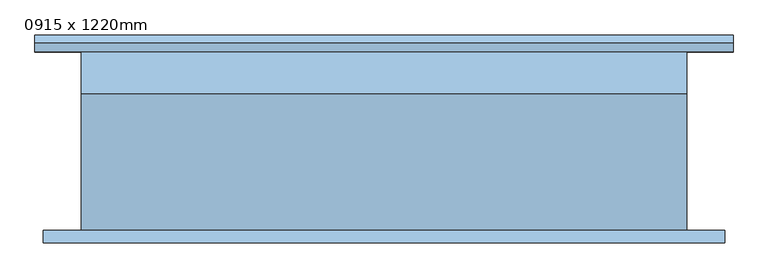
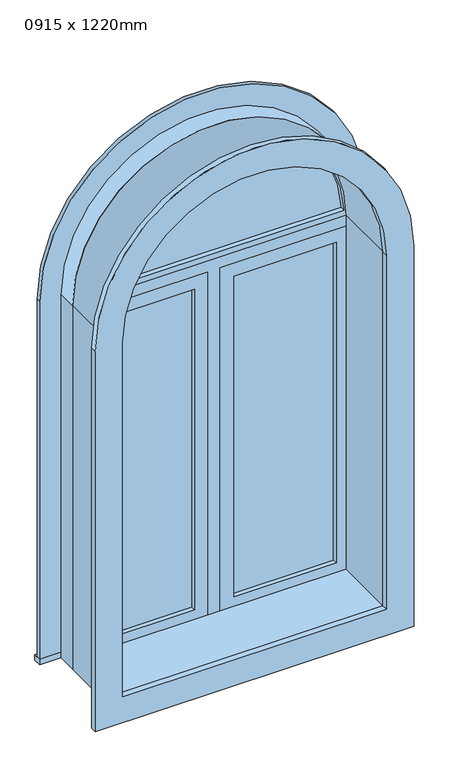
"""IFC4 building model written with IfcOpenShell, lengths in millimetres: window geometry, M_Combination Rtp with Trim : 0915 x 1220mm."""

from ifc_helpers import new_model, si_unit, point, frame, frame_2d, origin, place, context, project, spatial, polyline, circle_curve, trimmed, segment, composite_curve, outline, extrude, source, transform, mapped, element, save


def window_0915_x_1220mm_3bb93231(model_context):
    return source(origin(), model_context, "Body", "SweptSolid", [
        extrude(outline(composite_curve([segment(polyline([(2154.05, -506.7478419), (857.75, -506.7478419), (857.75, 522.7521581), (2154.05, 522.7521581)]), True, "CONTINUOUS"), segment(trimmed(circle_curve(frame_2d((2154.05, 8.0021581)), 514.75), [point((2154.05, 522.7521581))], [point((2154.05, -506.7478419))], False, "CARTESIAN"), True, "CONTINUOUS")], self_intersect=False), holes=[composite_curve([segment(trimmed(circle_curve(frame_2d((2154.05, 8.0021581)), 425.75), [point((2154.05, -417.7478419))], [point((2154.05, 433.7521581))], True, "CARTESIAN"), True, "CONTINUOUS"), segment(polyline([(2154.05, 433.7521581), (946.75, 433.7521581), (946.75, -417.7478419), (2154.05, -417.7478419)]), True, "CONTINUOUS")], self_intersect=False)]), frame((0.0, -154.0, 0.0), z_axis=(0.0, 1.0, 0.0), x_axis=(0.0, 0.0, 1.0)), (0.0, 0.0, 1.0), 19.0),
        extrude(outline(composite_curve([segment(trimmed(circle_curve(frame_2d((2154.05, 8.0021581)), 419.515161), [point((2173.0999995, 427.0845699))], [point((2173.0999995, -411.0802537))], False, "CARTESIAN"), True, "CONTINUOUS"), segment(polyline([(2173.0999995, -411.0802537), (2173.0999995, 427.0845699)]), True, "CONTINUOUS")], self_intersect=False)), frame((0.0, 87.425, 0.0), z_axis=(0.0, 1.0, 0.0), x_axis=(0.0, 0.0, 1.0)), (0.0, 0.0, 1.0), 12.7),
        extrude(outline(composite_curve([segment(trimmed(circle_curve(frame_2d((2154.05, 8.0021581)), 438.45), [point((2154.05, 446.4521581))], [point((2154.05, -430.4478419))], False, "CARTESIAN"), True, "CONTINUOUS"), segment(polyline([(2154.05, -430.4478419), (2154.05, 446.4521581)]), True, "CONTINUOUS")], self_intersect=False), holes=[composite_curve([segment(polyline([(2173.0999995, 427.0845698), (2173.0999995, -411.0802537)]), True, "CONTINUOUS"), segment(trimmed(circle_curve(frame_2d((2154.05, 8.0021581)), 419.515161), [point((2173.0999995, -411.0802537))], [point((2173.0999995, 427.0845698))], True, "CARTESIAN"), True, "CONTINUOUS")], self_intersect=False)]), frame((0.0, 71.55, 0.0), z_axis=(0.0, 1.0, 0.0), x_axis=(0.0, 0.0, 1.0)), (0.0, 0.0, 1.0), 44.45),
        extrude(outline(composite_curve([segment(polyline([(915.0, -449.4978419), (915.0, 465.5021581), (2154.05, 465.5021581)]), True, "CONTINUOUS"), segment(trimmed(circle_curve(frame_2d((2154.05, 8.0021581)), 457.5), [point((2154.05, 465.5021581))], [point((2154.05, -449.4978419))], False, "CARTESIAN"), True, "CONTINUOUS"), segment(polyline([(2154.05, -449.4978419), (915.0, -449.4978419)]), True, "CONTINUOUS")], self_intersect=False), holes=[composite_curve([segment(polyline([(934.05, -430.4478419), (2154.05, -430.4478419)]), True, "CONTINUOUS"), segment(trimmed(circle_curve(frame_2d((2154.05, 8.0021581)), 438.45), [point((2154.05, -430.4478419))], [point((2154.05, 446.4521581))], True, "CARTESIAN"), True, "CONTINUOUS"), segment(polyline([(2154.05, 446.4521581), (934.05, 446.4521581), (934.05, -430.4478419)]), True, "CONTINUOUS")], self_intersect=False)]), frame((0.0, 71.55, 0.0), z_axis=(0.0, 1.0, 0.0), x_axis=(0.0, 0.0, 1.0)), (0.0, 0.0, 1.0), 63.45),
        extrude(outline(polyline([(71.5021581, 100.125), (402.0021581, 100.125), (402.0021581, 87.425), (71.5021581, 87.425), (71.5021581, 100.125)])), frame((0.0, 0.0, 978.5), z_axis=(0.0, 0.0, 1.0), x_axis=(1.0, 0.0, 0.0)), (0.0, 0.0, 1.0), 1093.0),
        extrude(outline(polyline([(2115.95, 27.0521581), (934.05, 27.0521581), (934.05, 446.4521581), (2115.95, 446.4521581), (2115.95, 27.0521581)]), holes=[polyline([(2071.5, 71.5021581), (2071.5, 402.0021581), (978.5, 402.0021581), (978.5, 71.5021581), (2071.5, 71.5021581)])]), frame((0.0, 71.55, 0.0), z_axis=(0.0, 1.0, 0.0), x_axis=(0.0, 0.0, 1.0)), (0.0, 0.0, 1.0), 44.45),
        extrude(outline(polyline([(934.05, -11.0478419), (934.05, 27.0521581), (2115.95, 27.0521581), (2115.95, 446.4521581), (2154.05, 446.4521581), (2154.05, -430.4478419), (2115.95, -430.4478419), (2115.95, -11.0478419), (934.05, -11.0478419)])), frame((0.0, 71.55, 0.0), z_axis=(0.0, 1.0, 0.0), x_axis=(0.0, 0.0, 1.0)), (0.0, 0.0, 1.0), 63.5),
        extrude(outline(polyline([(-519.4478419, 160.7), (535.4521581, 160.7), (535.4521581, 135.0), (-519.4478419, 135.0), (-519.4478419, 160.7)])), frame((0.0, 0.0, 915.0), z_axis=(0.0, 0.0, 1.0), x_axis=(1.0, 0.0, 0.0)), (0.0, 0.0, 1.0), 19.05),
        extrude(outline(composite_curve([segment(polyline([(934.05, 446.4521581), (934.05, 535.4521581), (2154.05, 535.4521581)]), True, "CONTINUOUS"), segment(trimmed(circle_curve(frame_2d((2154.05, 8.0021581)), 527.45), [point((2154.05, 535.4521581))], [point((2154.05, -519.4478419))], False, "CARTESIAN"), True, "CONTINUOUS"), segment(polyline([(2154.05, -519.4478419), (934.05, -519.4478419), (934.05, -430.4478419), (2154.05, -430.4478419)]), True, "CONTINUOUS"), segment(trimmed(circle_curve(frame_2d((2154.05, 8.0021581)), 438.45), [point((2154.05, -430.4478419))], [point((2154.05, 446.4521581))], True, "CARTESIAN"), True, "CONTINUOUS"), segment(polyline([(2154.05, 446.4521581), (934.05, 446.4521581)]), True, "CONTINUOUS")], self_intersect=False)), frame((0.0, 135.0, 0.0), z_axis=(0.0, 1.0, 0.0), x_axis=(0.0, 0.0, 1.0)), (0.0, 0.0, 1.0), 13.0),
        extrude(outline(polyline([(-55.4978419, 87.425), (-385.9978419, 87.425), (-385.9978419, 100.125), (-55.4978419, 100.125), (-55.4978419, 87.425)])), frame((0.0, 0.0, 978.5), z_axis=(0.0, 0.0, 1.0), x_axis=(1.0, 0.0, 0.0)), (0.0, 0.0, 1.0), 1093.0),
        extrude(outline(polyline([(2115.95, -430.4478419), (934.05, -430.4478419), (934.05, -11.0478419), (2115.95, -11.0478419), (2115.95, -430.4478419)]), holes=[polyline([(2071.5, -385.9978419), (2071.5, -55.4978419), (978.5, -55.4978419), (978.5, -385.9978419), (2071.5, -385.9978419)])]), frame((0.0, 71.55, 0.0), z_axis=(0.0, 1.0, 0.0), x_axis=(0.0, 0.0, 1.0)), (0.0, 0.0, 1.0), 44.45),
        extrude(outline(composite_curve([segment(polyline([(915.0, 465.5021581), (2154.05, 465.5021581)]), True, "CONTINUOUS"), segment(trimmed(circle_curve(frame_2d((2154.05, 8.0021581)), 457.5), [point((2154.05, 465.5021581))], [point((2154.05, -449.4978419))], False, "CARTESIAN"), True, "CONTINUOUS"), segment(polyline([(2154.05, -449.4978419), (915.0, -449.4978419), (915.0, 465.5021581)]), True, "CONTINUOUS")], self_intersect=False), holes=[composite_curve([segment(polyline([(946.75, 433.7521581), (946.75, -417.7478419), (2154.05, -417.7478419)]), True, "CONTINUOUS"), segment(trimmed(circle_curve(frame_2d((2154.05, 8.0021581)), 425.75), [point((2154.05, -417.7478419))], [point((2154.05, 433.7521581))], True, "CARTESIAN"), True, "CONTINUOUS"), segment(polyline([(2154.05, 433.7521581), (946.75, 433.7521581)]), True, "CONTINUOUS")], self_intersect=False)]), frame((0.0, -135.0, 0.0), z_axis=(0.0, 1.0, 0.0), x_axis=(0.0, 0.0, 1.0)), (0.0, 0.0, 1.0), 206.55),
    ])


if __name__ == "__main__":
    model = new_model("IFC4")
    model_context = context("Model", 3, world=origin())
    ifc_project = project(units=[si_unit("LENGTHUNIT", "METRE", prefix="MILLI")], contexts=[model_context])
    site = spatial("IfcSite", under=ifc_project)
    building = spatial("IfcBuilding", under=site)
    placement = place(None, origin())
    window_0915_x_1220mm_shape = window_0915_x_1220mm_3bb93231(model_context)
    element("IfcWindow", 1, ObjectType="M_Combination Rtp with Trim : 0915 x 1220mm", at=placement, inside=building, context=model_context, shape_type="MappedRepresentation", body=[
        mapped(window_0915_x_1220mm_shape, transform((0.0, 0.0, 0.0), x_axis=(1.0, 0.0, 0.0), y_axis=(0.0, 1.0, 0.0), z_axis=(0.0, 0.0, 1.0))),
    ])
    save(model, "model.ifc")
